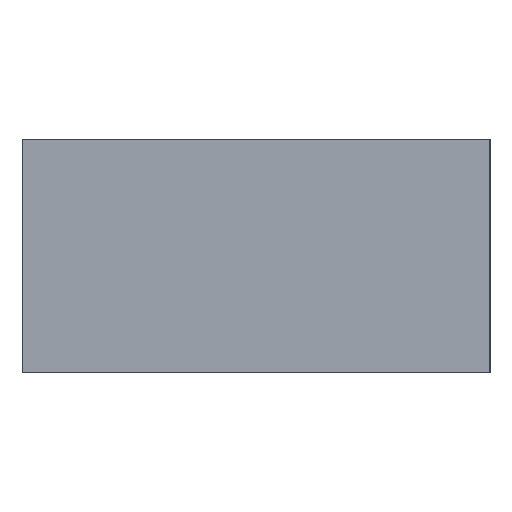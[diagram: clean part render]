
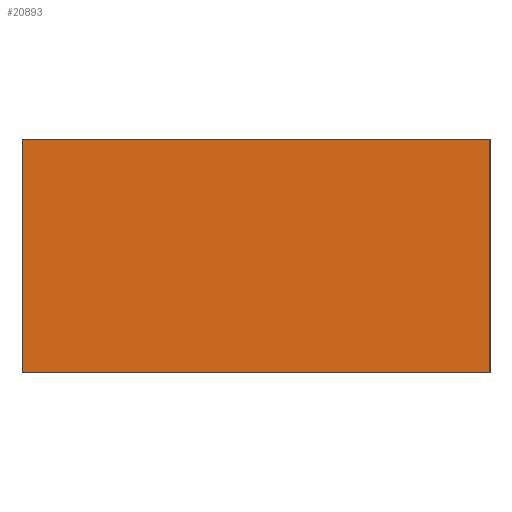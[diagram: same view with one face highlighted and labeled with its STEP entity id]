
A CAD part, left-side view. The second image highlights one B-rep face of the part: STEP entity #20893.
In plain terms, the highlighted planar face has unit normal (-1, 0, 0).
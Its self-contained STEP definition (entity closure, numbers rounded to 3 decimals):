
#589=LINE('',#29328,#741);
#603=LINE('',#29438,#755);
#606=LINE('',#29444,#758);
#607=LINE('',#29446,#759);
#741=VECTOR('',#24311,1000.);
#755=VECTOR('',#24341,1000.);
#758=VECTOR('',#24346,1000.);
#759=VECTOR('',#24347,1000.);
#2068=ORIENTED_EDGE('',*,*,#4850,.T.);
#2069=ORIENTED_EDGE('',*,*,#4851,.F.);
#2070=ORIENTED_EDGE('',*,*,#4847,.F.);
#2071=ORIENTED_EDGE('',*,*,#4821,.T.);
#4821=EDGE_CURVE('',#6211,#6213,#589,.T.);
#4847=EDGE_CURVE('',#6211,#6238,#603,.T.);
#4850=EDGE_CURVE('',#6213,#6240,#606,.T.);
#4851=EDGE_CURVE('',#6238,#6240,#607,.T.);
#6211=VERTEX_POINT('',#29323);
#6213=VERTEX_POINT('',#29327);
#6238=VERTEX_POINT('',#29439);
#6240=VERTEX_POINT('',#29445);
#7602=EDGE_LOOP('',(#2068,#2069,#2070,#2071));
#9836=FACE_BOUND('',#7602,.T.);
#12055=PLANE('',#22089);
#20893=ADVANCED_FACE('',(#9836),#12055,.F.);
#22089=AXIS2_PLACEMENT_3D('',#29443,#24344,#24345);
#24311=DIRECTION('',(0.,1.,0.));
#24341=DIRECTION('',(0.,0.,-1.));
#24344=DIRECTION('',(1.,0.,0.));
#24345=DIRECTION('',(0.,0.,-1.));
#24346=DIRECTION('',(0.,0.,-1.));
#24347=DIRECTION('',(0.,1.,0.));
#29323=CARTESIAN_POINT('',(-67.5,-35.,20.));
#29327=CARTESIAN_POINT('',(-67.5,35.,20.));
#29328=CARTESIAN_POINT('',(-67.5,0.,20.));
#29438=CARTESIAN_POINT('',(-67.5,-35.,20.));
#29439=CARTESIAN_POINT('',(-67.5,-35.,-15.));
#29443=CARTESIAN_POINT('',(-67.5,35.,20.));
#29444=CARTESIAN_POINT('',(-67.5,35.,20.));
#29445=CARTESIAN_POINT('',(-67.5,35.,-15.));
#29446=CARTESIAN_POINT('',(-67.5,-35.,-15.));
